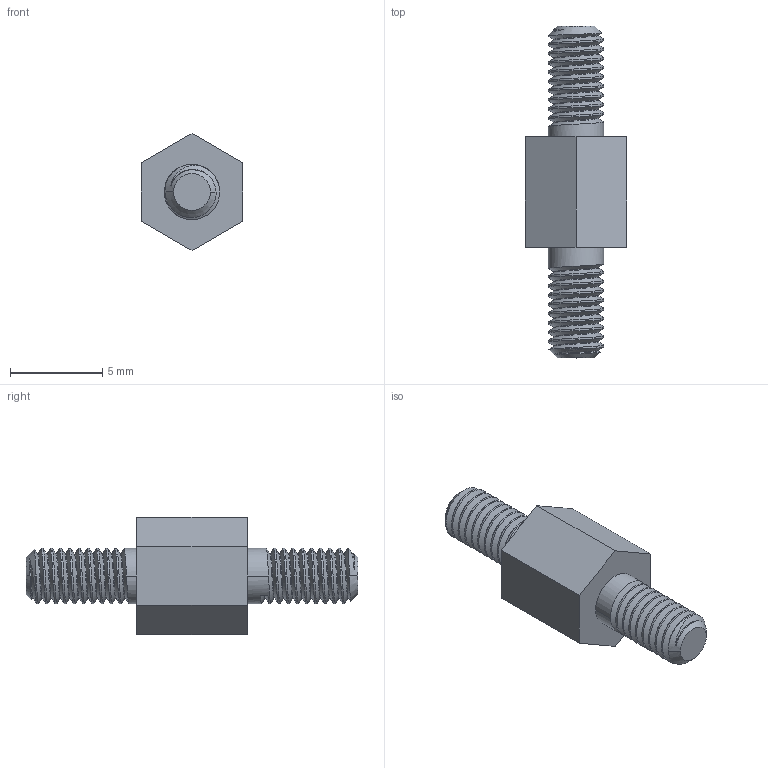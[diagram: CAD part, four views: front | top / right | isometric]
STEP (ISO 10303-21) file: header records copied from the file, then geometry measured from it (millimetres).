
FILE_DESCRIPTION (( 'STEP AP214' ), '1' );
FILE_NAME ('PCHNN-6.STEP', '2014-12-30T11:04:19', ( 'Tester2' ), ( '' ), 'SwSTEP 2.0', 'SolidWorks 2012', '' );
FILE_SCHEMA (( 'AUTOMOTIVE_DESIGN' ));
Length unit declared in the file: millimetre
Products named in the file (1): PCHNN-6
Bounding box: 5.5 x 18 x 6.35 mm (x, y, z)
Volume: 228.2 mm3; surface area: 323.2 mm2
Topology: 1 solids, 1 shells, 63 faces, 176 edges, 117 vertices
Faces by surface type: cylinder 40, plane 12, bspline 6, cone 5
Entity records: 5604 total; most frequent: CARTESIAN_POINT 3808, ORIENTED_EDGE 352, DIRECTION 201, EDGE_CURVE 176, VERTEX_POINT 117, AXIS2_PLACEMENT_3D 69, EDGE_LOOP 65, ADVANCED_FACE 63
